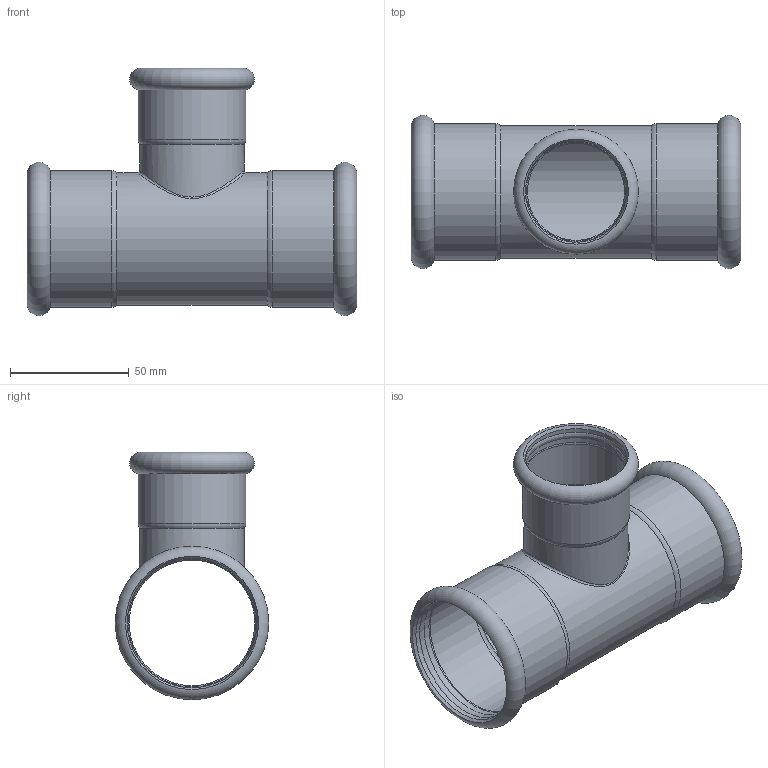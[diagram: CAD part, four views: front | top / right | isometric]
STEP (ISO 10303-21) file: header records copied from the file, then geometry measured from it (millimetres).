
FILE_DESCRIPTION(/* description */ ('TEE RIDOTTO 54-42-54'),/* implementation_level */ '2;1');
FILE_NAME(/* name */ 'R:\Disegni3D_Area_Manager\Inoxpres.step\192_INOXPRES\192054042_Inoxpres.stp',/* time_stamp */ '2022-10-12T11:57:46+02:00',/* author */ ('Vault'),/* organization */ ('Raccorderie metalliche s.p.a. '),/* preprocessor_version */ 'ST-DEVELOPER v18.1',/* originating_system */ 'Autodesk Inventor 2020',/* authorisation */ 'Raccorderie metalliche s.p.a. ');
FILE_SCHEMA (('AUTOMOTIVE_DESIGN { 1 0 10303 214 3 1 1 }'));
Length unit declared in the file: millimetre
Products named in the file (1): 192054042_Inoxpres
Bounding box: 139 x 64.76 x 104.38 mm (x, y, z)
Volume: 56837 mm3; surface area: 61523.6 mm2
Topology: 1 solids, 1 shells, 38 faces, 135 edges, 98 vertices
Faces by surface type: cylinder 17, torus 15, cone 3, bspline 2, plane 1
Full cylindrical faces by diameter (mm): 41 x1, 41.6 x1, 42.4 x1, 42.7 x2, 44 x1, 45.4 x1, 53 x1, 54.5 x2, 54.7 x4, 56 x1, 57.5 x2
Entity records: 1987 total; most frequent: CARTESIAN_POINT 654, DIRECTION 314, ORIENTED_EDGE 274, AXIS2_PLACEMENT_3D 146, EDGE_CURVE 137, CIRCLE 109, VERTEX_POINT 100, EDGE_LOOP 41
